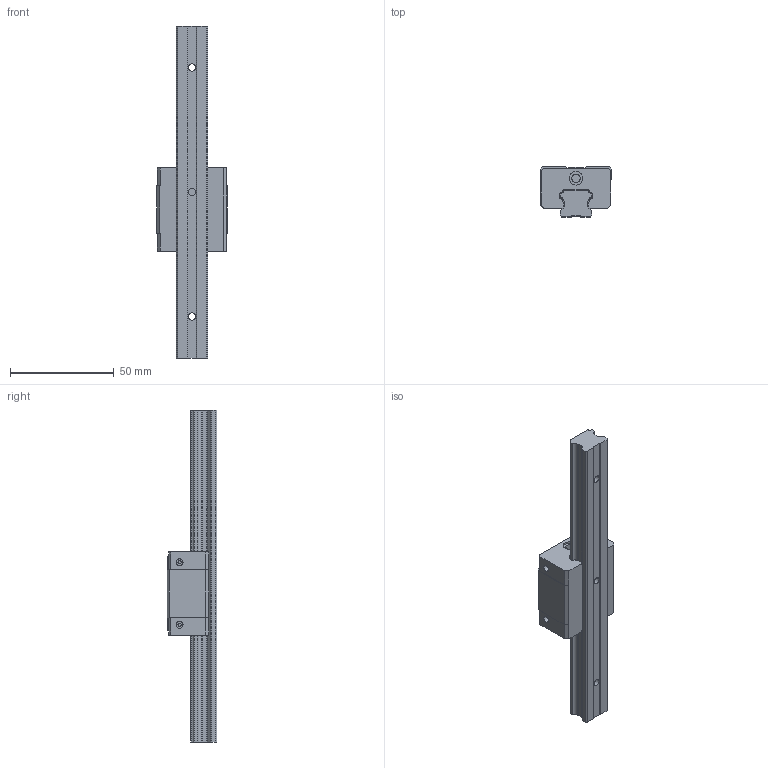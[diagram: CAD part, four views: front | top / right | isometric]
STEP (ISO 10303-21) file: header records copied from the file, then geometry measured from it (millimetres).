
FILE_DESCRIPTION((''),'2;1');
FILE_NAME('QEH15SA_ASM','2008-07-11T',('brianyu'),(''),'PRO/ENGINEER BY PARAMETRIC TECHNOLOGY CORPORATION, 2004360','PRO/ENGINEER BY PARAMETRIC TECHNOLOGY CORPORATION, 2004360','');
FILE_SCHEMA(('CONFIG_CONTROL_DESIGN'));
Length unit declared in the file: millimetre
Products named in the file (4): QEH15SA_BLOCK_AF0; QER15_RAIL; QEH15SA_ASM_AF0_ASM; QEH15SA_ASM
Assembly tree (3 placements, depth 3):
  QEH15SA_ASM
    QEH15SA_ASM_AF0_ASM
      QEH15SA_BLOCK_AF0
      QER15_RAIL
Bounding box: 34 x 24 x 160 mm (x, y, z)
Volume: 47106.5 mm3; surface area: 16550.9 mm2
Topology: 2 solids, 2 shells, 219 faces, 654 edges, 460 vertices
Faces by surface type: plane 111, cylinder 108
Entity records: 7682 total; most frequent: DIRECTION 1350, CARTESIAN_POINT 1342, ORIENTED_EDGE 1308, EDGE_CURVE 654, AXIS2_PLACEMENT_3D 468, VERTEX_POINT 460, VECTOR 414, LINE 414
